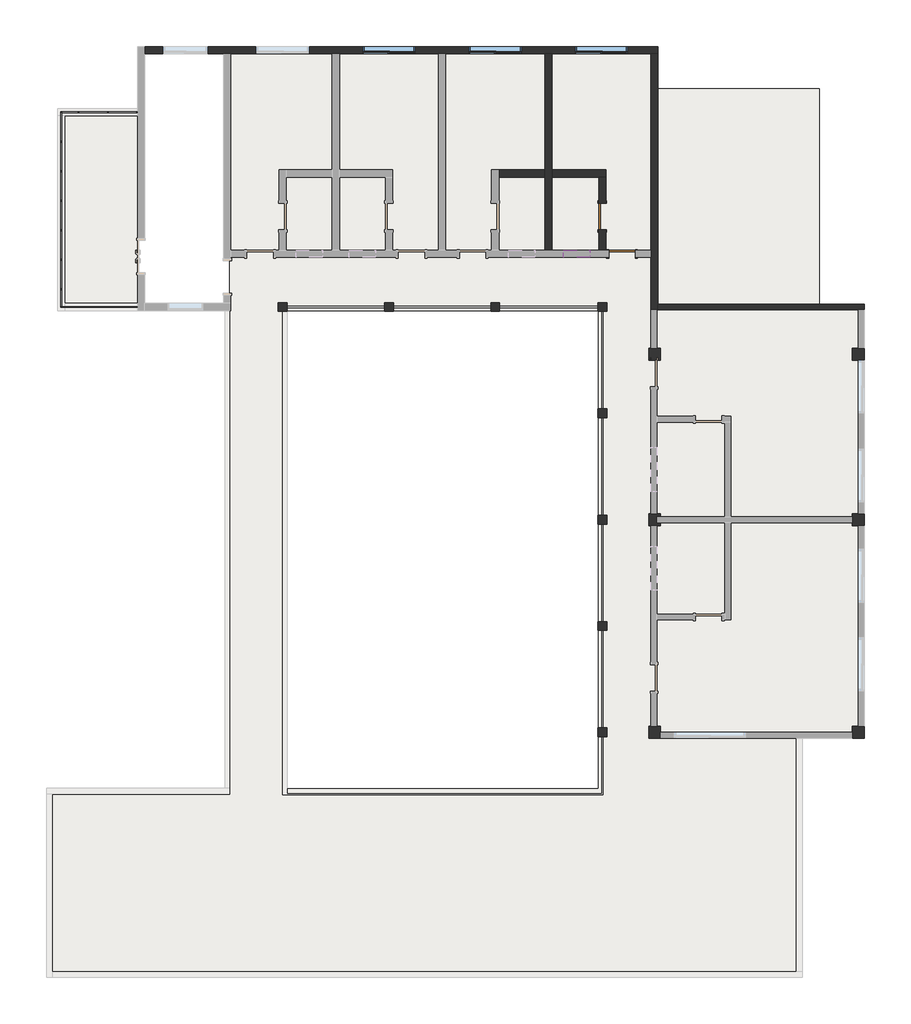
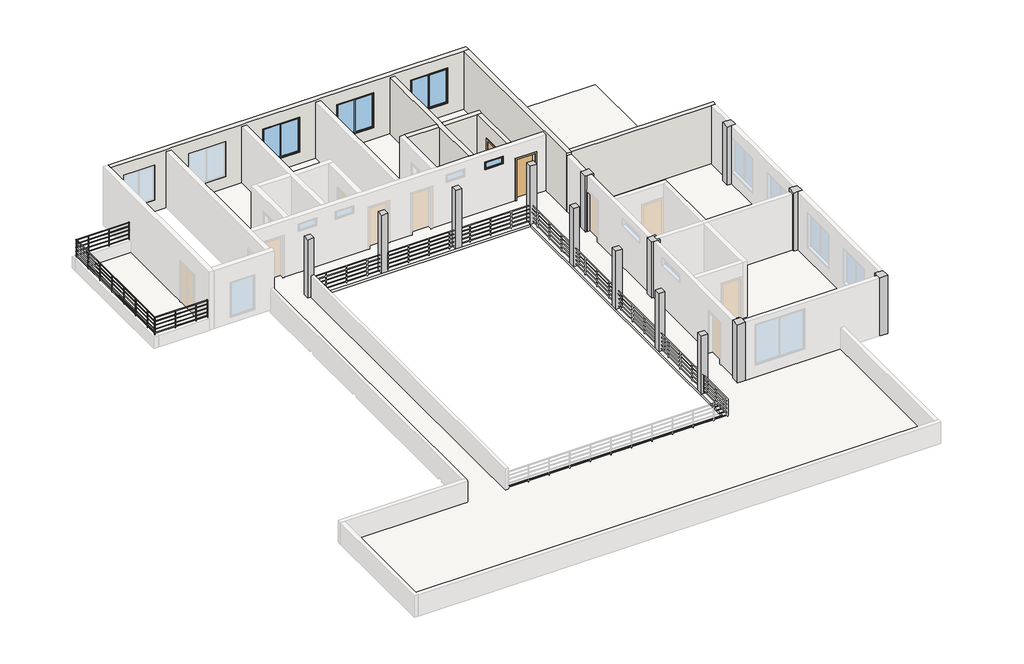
# One storey, part 2 of 3: 14 columns, 6 walls, 4 windows, 2 doors, 1 railing, 1 slab.
"""IFC4 building model written with IfcOpenShell, lengths in millimetres."""

from ifc_helpers import new_model, si_unit, point, frame, frame_2d, origin, place, context, project, spatial, polyline, circle_curve, ellipse_curve, trimmed, segment, composite_curve, outline, extrude, faceted_brep, transform, mapped, element, save
from ifc_brep_helpers import plane_surface, cylinder_surface, advanced_brep
from components import z2_300_x_300mm_b37a59b8, m0921_198a37c4, m0921_4988a537, c1818_23193a84, gc0904_cdc2df7b

model = new_model("IFC4")

# Units and contexts
model_context = context("Model", 3, world=origin())
ifc_project = project(units=[si_unit("LENGTHUNIT", "METRE", prefix="MILLI")], contexts=[model_context])

# Site, building, storey
site = spatial("IfcSite", under=ifc_project)
building = spatial("IfcBuilding", under=site)
storey = spatial("IfcBuildingStorey", under=building, Name="标高 2", Elevation=4200.0)

# Columns
placement = place(None, origin())
element("IfcColumn", 1, ObjectType="混凝土 - 矩形 - 柱 : Z1-400 x 400mm", at=placement, inside=storey, context=model_context, shape_type="Brep", body=[
    faceted_brep([(11736.7377372, 15644.1658649, 4200.0), (11736.7377372, 15244.1658649, 4200.0), (11336.7377372, 15244.1658649, 4200.0), (11336.7377372, 15644.1658649, 4200.0), (11416.7377372, 15644.1658649, 4200.0), (11616.7377372, 15644.1658649, 4200.0), (11736.7377372, 15644.1658649, 7080.0), (11736.7377372, 15244.1658649, 7080.0), (11616.7377372, 15244.1658649, 7080.0), (11416.7377372, 15244.1658649, 7080.0), (11336.7377372, 15244.1658649, 7080.0), (11336.7377372, 15644.1658649, 7080.0), (11416.7377372, 15644.1658649, 7080.0), (11616.7377372, 15644.1658649, 7080.0)], [[[0, 1, 2, 3, 4, 5]], [[6, 7, 1, 0]], [[7, 8, 9, 10, 2, 1]], [[10, 11, 3, 2]], [[11, 12, 13, 6, 0, 5, 4, 3]], [[6, 13, 12, 11, 10, 9, 8, 7]]]),
])
element("IfcColumn", 2, ObjectType="混凝土 - 矩形 - 柱 : Z1-400 x 400mm", at=placement, inside=storey, context=model_context, shape_type="Brep", body=[
    faceted_brep([(18636.7377372, 15644.1658649, 4200.0), (18636.7377372, 15244.1658649, 4200.0), (18436.7377372, 15244.1658649, 4200.0), (18236.7377372, 15244.1658649, 4200.0), (18236.7377372, 15644.1658649, 4200.0), (18436.7377372, 15644.1658649, 4200.0), (18636.7377372, 15644.1658649, 7200.0), (18636.7377372, 15244.1658649, 7200.0), (18636.7377372, 15244.1658649, 6600.0), (18636.7377372, 15244.1658649, 4800.0), (18436.7377372, 15244.1658649, 7200.0), (18236.7377372, 15244.1658649, 7200.0), (18236.7377372, 15644.1658649, 7200.0), (18436.7377372, 15644.1658649, 7200.0)], [[[0, 1, 2, 3, 4, 5]], [[6, 7, 8, 9, 1, 0]], [[7, 10, 11, 3, 2, 1, 9, 8]], [[11, 12, 4, 3]], [[12, 13, 6, 0, 5, 4]], [[6, 13, 12, 11, 10, 7]]]),
])
element("IfcColumn", 3, ObjectType="混凝土 - 矩形 - 柱 : Z1-400 x 400mm", at=placement, inside=storey, context=model_context, shape_type="Brep", body=[
    faceted_brep([(11736.7377372, 10044.1658649, 4200.0), (11736.7377372, 9644.1658649, 4200.0), (11616.7377372, 9644.1658649, 4200.0), (11416.7377372, 9644.1658649, 4200.0), (11336.7377372, 9644.1658649, 4200.0), (11336.7377372, 10044.1658649, 4200.0), (11416.7377372, 10044.1658649, 4200.0), (11616.7377372, 10044.1658649, 4200.0), (11736.7377372, 10044.1658649, 7080.0), (11736.7377372, 9644.1658649, 7080.0), (11616.7377372, 9644.1658649, 7080.0), (11416.7377372, 9644.1658649, 7080.0), (11336.7377372, 9644.1658649, 7080.0), (11336.7377372, 10044.1658649, 7080.0), (11416.7377372, 10044.1658649, 7080.0), (11616.7377372, 10044.1658649, 7080.0)], [[[0, 1, 2, 3, 4, 5, 6, 7]], [[8, 9, 1, 0]], [[9, 10, 11, 12, 4, 3, 2, 1]], [[12, 13, 5, 4]], [[13, 14, 15, 8, 0, 7, 6, 5]], [[8, 15, 14, 13, 12, 11, 10, 9]]]),
])
element("IfcColumn", 4, ObjectType="混凝土 - 矩形 - 柱 : Z1-400 x 400mm", at=placement, inside=storey, context=model_context, shape_type="Brep", body=[
    faceted_brep([(18636.7377372, 10044.1658649, 4200.0), (18636.7377372, 9644.1658649, 4200.0), (18436.7377372, 9644.1658649, 4200.0), (18236.7377372, 9644.1658649, 4200.0), (18236.7377372, 9744.1658649, 4200.0), (18236.7377372, 9944.1658649, 4200.0), (18236.7377372, 10044.1658649, 4200.0), (18436.7377372, 10044.1658649, 4200.0), (18636.7377372, 10044.1658649, 7200.0), (18636.7377372, 9644.1658649, 7200.0), (18436.7377372, 9644.1658649, 7200.0), (18236.7377372, 9644.1658649, 7200.0), (18236.7377372, 10044.1658649, 7200.0), (18436.7377372, 10044.1658649, 7200.0)], [[[0, 1, 2, 3, 4, 5, 6, 7]], [[8, 9, 1, 0]], [[9, 10, 11, 3, 2, 1]], [[11, 12, 6, 5, 4, 3]], [[12, 13, 8, 0, 7, 6]], [[8, 13, 12, 11, 10, 9]]]),
])
element("IfcColumn", 5, ObjectType="混凝土 - 矩形 - 柱 : Z1-400 x 400mm", at=placement, inside=storey, context=model_context, shape_type="Brep", body=[
    faceted_brep([(11736.7377372, 2844.1658649, 4200.0), (11736.7377372, 2644.1658649, 4200.0), (11736.7377372, 2444.1658649, 4200.0), (11336.7377372, 2444.1658649, 4200.0), (11336.7377372, 2844.1658649, 4200.0), (11416.7377372, 2844.1658649, 4200.0), (11616.7377372, 2844.1658649, 4200.0), (11736.7377372, 2844.1658649, 7200.0), (11736.7377372, 2644.1658649, 7200.0), (11736.7377372, 2444.1658649, 7200.0), (11336.7377372, 2444.1658649, 7200.0), (11336.7377372, 2844.1658649, 7200.0)], [[[0, 1, 2, 3, 4, 5, 6]], [[7, 8, 9, 2, 1, 0]], [[9, 10, 3, 2]], [[10, 11, 4, 3]], [[11, 7, 0, 6, 5, 4]], [[7, 11, 10, 9, 8]]]),
])
element("IfcColumn", 6, ObjectType="混凝土 - 矩形 - 柱 : Z1-400 x 400mm", at=placement, inside=storey, context=model_context, shape_type="Brep", body=[
    faceted_brep([(18636.7377372, 2844.1658649, 4200.0), (18636.7377372, 2444.1658649, 4200.0), (18236.7377372, 2444.1658649, 4200.0), (18236.7377372, 2644.1658649, 4200.0), (18236.7377372, 2844.1658649, 4200.0), (18436.7377372, 2844.1658649, 4200.0), (18636.7377372, 2844.1658649, 7200.0), (18636.7377372, 2444.1658649, 7200.0), (18236.7377372, 2444.1658649, 7200.0), (18236.7377372, 2644.1658649, 7200.0), (18236.7377372, 2844.1658649, 7200.0), (18436.7377372, 2844.1658649, 7200.0)], [[[0, 1, 2, 3, 4, 5]], [[6, 7, 1, 0]], [[7, 8, 2, 1]], [[8, 9, 10, 4, 3, 2]], [[10, 11, 6, 0, 5, 4]], [[6, 11, 10, 9, 8, 7]]]),
])
element("IfcColumn", 7, ObjectType="混凝土 - 矩形 - 柱 : Z2-300 x 300mm", at=placement, inside=storey, context=model_context, shape_type="Brep", body=[
    faceted_brep([(-913.2622628, 17194.1658649, 4200.0), (-913.2622628, 17044.1658649, 4200.0), (-913.2622628, 16894.1658649, 4200.0), (-1063.2622628, 16894.1658649, 4200.0), (-1213.2622628, 16894.1658649, 4200.0), (-1213.2622628, 17194.1658649, 4200.0), (-913.2622628, 17194.1658649, 7200.0), (-913.2622628, 16894.1658649, 7200.0), (-913.2622628, 16894.1658649, 5300.0), (-1213.2622628, 16894.1658649, 7200.0), (-1213.2622628, 17194.1658649, 7200.0)], [[[0, 1, 2, 3, 4, 5]], [[6, 7, 8, 2, 1, 0]], [[7, 9, 4, 3, 2, 8]], [[9, 10, 5, 4]], [[10, 6, 0, 5]], [[6, 10, 9, 7]]]),
])
element("IfcColumn", 8, ObjectType="混凝土 - 矩形 - 柱 : Z2-300 x 300mm", at=placement, inside=storey, context=model_context, shape_type="SweptSolid", body=[
    extrude(outline(polyline([(2686.7377372, 17194.1658649), (2686.7377372, 16894.1658649), (2386.7377372, 16894.1658649), (2386.7377372, 17194.1658649), (2686.7377372, 17194.1658649)])), frame((0.0, 0.0, 4200.0), z_axis=(0.0, 0.0, 1.0), x_axis=(1.0, 0.0, 0.0)), (0.0, 0.0, 1.0), 3000.0),
])
element("IfcColumn", 9, ObjectType="混凝土 - 矩形 - 柱 : Z2-300 x 300mm", at=placement, inside=storey, context=model_context, shape_type="SweptSolid", body=[
    extrude(outline(polyline([(6286.7377372, 17194.1658649), (6286.7377372, 16894.1658649), (5986.7377372, 16894.1658649), (5986.7377372, 17194.1658649), (6286.7377372, 17194.1658649)])), frame((0.0, 0.0, 4200.0), z_axis=(0.0, 0.0, 1.0), x_axis=(1.0, 0.0, 0.0)), (0.0, 0.0, 1.0), 3000.0),
])
element("IfcColumn", 10, ObjectType="混凝土 - 矩形 - 柱 : Z2-300 x 300mm", at=placement, inside=storey, context=model_context, shape_type="SweptSolid", body=[
    extrude(outline(polyline([(9916.7377372, 17194.1658649), (9916.7377372, 16894.1658649), (9616.7377372, 16894.1658649), (9616.7377372, 17194.1658649), (9916.7377372, 17194.1658649)])), frame((0.0, 0.0, 4200.0), z_axis=(0.0, 0.0, 1.0), x_axis=(1.0, 0.0, 0.0)), (0.0, 0.0, 1.0), 3000.0),
])
z2_300_x_300mm_shape = z2_300_x_300mm_b37a59b8(model_context)
element("IfcColumn", 11, ObjectType="混凝土 - 矩形 - 柱 : Z2-300 x 300mm", at=placement, inside=storey, context=model_context, shape_type="MappedRepresentation", body=[
    mapped(z2_300_x_300mm_shape, transform((9766.7377372, 13444.1658649, 0.0), x_axis=(1.0, 0.0, 0.0), y_axis=(0.0, 1.0, 0.0), z_axis=(0.0, 0.0, 1.0))),
])
element("IfcColumn", 12, ObjectType="混凝土 - 矩形 - 柱 : Z2-300 x 300mm", at=placement, inside=storey, context=model_context, shape_type="MappedRepresentation", body=[
    mapped(z2_300_x_300mm_shape, transform((9766.7377372, 9844.1658649, 0.0), x_axis=(1.0, 0.0, 0.0), y_axis=(0.0, 1.0, 0.0), z_axis=(0.0, 0.0, 1.0))),
])
element("IfcColumn", 13, ObjectType="混凝土 - 矩形 - 柱 : Z2-300 x 300mm", at=placement, inside=storey, context=model_context, shape_type="MappedRepresentation", body=[
    mapped(z2_300_x_300mm_shape, transform((9766.7377372, 6244.1658649, 0.0), x_axis=(1.0, 0.0, 0.0), y_axis=(0.0, 1.0, 0.0), z_axis=(0.0, 0.0, 1.0))),
])
element("IfcColumn", 14, ObjectType="混凝土 - 矩形 - 柱 : Z2-300 x 300mm", at=placement, inside=storey, context=model_context, shape_type="MappedRepresentation", body=[
    mapped(z2_300_x_300mm_shape, transform((9766.7377372, 2644.1658649, 0.0), x_axis=(1.0, 0.0, 0.0), y_axis=(0.0, 1.0, 0.0), z_axis=(0.0, 0.0, 1.0))),
])

# Doors
m0921_shape = m0921_198a37c4(model_context)
element("IfcDoor", 15, ObjectType="单扇 - 与墙齐 : M0921", at=placement, inside=storey, context=model_context, shape_type="MappedRepresentation", body=[
    mapped(m0921_shape, transform((9766.7377372, 20109.1658649, 4200.0), x_axis=(0.0, -1.0, 0.0), y_axis=(1.0, 0.0, 0.0), z_axis=(0.0, 0.0, 1.0))),
])
m0921_2_shape = m0921_4988a537(model_context)
element("IfcDoor", 16, ObjectType="单扇 - 与墙齐 : M0921", at=placement, inside=storey, context=model_context, shape_type="MappedRepresentation", body=[
    mapped(m0921_2_shape, transform((10436.7377372, 18844.1658649, 4200.0), x_axis=(1.0, 0.0, 0.0), y_axis=(0.0, 1.0, 0.0), z_axis=(0.0, 0.0, 1.0))),
])

# Railing
element("IfcRailing", 17, ObjectType="900mm 圆管", at=placement, inside=storey, context=model_context, shape_type="SolidModel", body=[
    advanced_brep(
    [(-5983.2622628, 23664.1658649, 5680.0), (-5983.2622628, 23624.1658649, 5680.0), (-8583.2622628, 23664.1658649, 5680.0), (-8543.2622628, 23624.1658649, 5680.0), (-8583.2622628, 17024.1658649, 5680.0), (-8543.2622628, 17064.1658649, 5680.0), (-5983.2622628, 17024.1658649, 5680.0), (-5983.2622628, 17064.1658649, 5680.0)],
    [
        (0, 1, circle_curve(frame((-5983.2622628, 23644.1658649, 5680.0), z_axis=(1.0, 0.0, 0.0), x_axis=(0.0, -1.0, 0.0)), 20.0)),
        (1, 0, circle_curve(frame((-5983.2622628, 23644.1658649, 5680.0), z_axis=(1.0, 0.0, 0.0), x_axis=(0.0, -1.0, 0.0)), 20.0)),
        (0, 2),
        (2, 3, ellipse_curve(frame((-8563.2622628, 23644.1658649, 5680.0), z_axis=(0.7071067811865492, 0.7071067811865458, 0.0), x_axis=(0.7071067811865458, -0.7071067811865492, 0.0)), 28.2842712, 20.0)),
        (3, 1),
        (3, 2, ellipse_curve(frame((-8563.2622628, 23644.1658649, 5680.0), z_axis=(0.7071067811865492, 0.7071067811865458, 0.0), x_axis=(0.7071067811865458, -0.7071067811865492, 0.0)), 28.2842712, 20.0)),
        (2, 4),
        (4, 5, ellipse_curve(frame((-8563.2622628, 17044.1658649, 5680.0), z_axis=(-0.7071067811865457, 0.7071067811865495, 0.0), x_axis=(0.7071067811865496, 0.7071067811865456, 0.0)), 28.2842712, 20.0)),
        (5, 3),
        (5, 4, ellipse_curve(frame((-8563.2622628, 17044.1658649, 5680.0), z_axis=(-0.7071067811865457, 0.7071067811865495, 0.0), x_axis=(0.7071067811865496, 0.7071067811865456, 0.0)), 28.2842712, 20.0)),
        (6, 7, circle_curve(frame((-5983.2622628, 17044.1658649, 5680.0), z_axis=(1.0, 0.0, 0.0), x_axis=(0.0, 1.0, 0.0)), 20.0)),
        (7, 6, circle_curve(frame((-5983.2622628, 17044.1658649, 5680.0), z_axis=(1.0, 0.0, 0.0), x_axis=(0.0, 1.0, 0.0)), 20.0)),
        (4, 6),
        (7, 5),
    ],
    [
        plane_surface(frame((-5983.2622628, 23644.1658649, 5700.0), z_axis=(1.0, 0.0, 0.0), x_axis=(0.0, -1.0, 0.0))),
        cylinder_surface(frame((-5983.2622628, 23644.1658649, 5680.0), z_axis=(1.0, 0.0, 0.0), x_axis=(0.0, -1.0, 0.0)), 20.0),
        cylinder_surface(frame((-8563.2622628, 23644.1658649, 5680.0), z_axis=(0.0, 1.0, 0.0), x_axis=(1.0, 0.0, 0.0)), 20.0),
        plane_surface(frame((-5983.2622628, 17044.1658649, 5700.0), z_axis=(1.0, 0.0, 0.0), x_axis=(0.0, 1.0, 0.0))),
        cylinder_surface(frame((-8563.2622628, 17044.1658649, 5680.0), z_axis=(-1.0, 0.0, 0.0), x_axis=(0.0, 1.0, 0.0)), 20.0),
    ],
    [
        (0, [[1, 2]]),
        (1, [[-1, 3, 4, 5]]),
        (1, [[-2, -5, 6, -3]]),
        (2, [[-4, 7, 8, 9]]),
        (2, [[-6, -9, 10, -7]]),
        (3, [[11, 12]]),
        (4, [[-8, 13, -12, 14]]),
        (4, [[-10, -14, -11, -13]]),
    ],
),
    advanced_brep(
    [(-5983.2622628, 23629.1658649, 5485.0), (-5983.2622628, 23659.1658649, 5485.0), (-8548.2622628, 23629.1658649, 5485.0), (-8578.2622628, 23659.1658649, 5485.0), (-8548.2622628, 17059.1658649, 5485.0), (-8578.2622628, 17029.1658649, 5485.0), (-5983.2622628, 17059.1658649, 5485.0), (-5983.2622628, 17029.1658649, 5485.0)],
    [
        (0, 1, circle_curve(frame((-5983.2622628, 23644.1658649, 5485.0), z_axis=(1.0, 0.0, 0.0), x_axis=(0.0, 1.0, 0.0)), 15.0)),
        (1, 0, circle_curve(frame((-5983.2622628, 23644.1658649, 5485.0), z_axis=(1.0, 0.0, 0.0), x_axis=(0.0, 1.0, 0.0)), 15.0)),
        (0, 2),
        (2, 3, ellipse_curve(frame((-8563.2622628, 23644.1658649, 5485.0), z_axis=(0.7071067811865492, 0.7071067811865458, 0.0), x_axis=(0.7071067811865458, -0.7071067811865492, 0.0)), 21.2132034, 15.0)),
        (3, 1),
        (3, 2, ellipse_curve(frame((-8563.2622628, 23644.1658649, 5485.0), z_axis=(0.7071067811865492, 0.7071067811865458, 0.0), x_axis=(0.7071067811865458, -0.7071067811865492, 0.0)), 21.2132034, 15.0)),
        (2, 4),
        (4, 5, ellipse_curve(frame((-8563.2622628, 17044.1658649, 5485.0), z_axis=(-0.7071067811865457, 0.7071067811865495, 0.0), x_axis=(0.7071067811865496, 0.7071067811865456, 0.0)), 21.2132034, 15.0)),
        (5, 3),
        (5, 4, ellipse_curve(frame((-8563.2622628, 17044.1658649, 5485.0), z_axis=(-0.7071067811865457, 0.7071067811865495, 0.0), x_axis=(0.7071067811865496, 0.7071067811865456, 0.0)), 21.2132034, 15.0)),
        (6, 7, circle_curve(frame((-5983.2622628, 17044.1658649, 5485.0), z_axis=(1.0, 0.0, 0.0), x_axis=(0.0, -1.0, 0.0)), 15.0)),
        (7, 6, circle_curve(frame((-5983.2622628, 17044.1658649, 5485.0), z_axis=(1.0, 0.0, 0.0), x_axis=(0.0, -1.0, 0.0)), 15.0)),
        (4, 6),
        (7, 5),
    ],
    [
        plane_surface(frame((-5983.2622628, 23644.1658649, 5500.0), z_axis=(1.0, 0.0, 0.0), x_axis=(0.0, -1.0, 0.0))),
        cylinder_surface(frame((-5983.2622628, 23644.1658649, 5485.0), z_axis=(1.0, 0.0, 0.0), x_axis=(0.0, 1.0, 0.0)), 15.0),
        cylinder_surface(frame((-8563.2622628, 23644.1658649, 5485.0), z_axis=(0.0, 1.0, 0.0), x_axis=(-1.0, 0.0, 0.0)), 15.0),
        plane_surface(frame((-5983.2622628, 17044.1658649, 5500.0), z_axis=(1.0, 0.0, 0.0), x_axis=(0.0, 1.0, 0.0))),
        cylinder_surface(frame((-8563.2622628, 17044.1658649, 5485.0), z_axis=(-1.0, 0.0, 0.0), x_axis=(0.0, -1.0, 0.0)), 15.0),
    ],
    [
        (0, [[1, 2]]),
        (1, [[-1, 3, 4, 5]]),
        (1, [[-2, -5, 6, -3]]),
        (2, [[-4, 7, 8, 9]]),
        (2, [[-6, -9, 10, -7]]),
        (3, [[11, 12]]),
        (4, [[-8, 13, -12, 14]]),
        (4, [[-10, -14, -11, -13]]),
    ],
),
    advanced_brep(
    [(-5983.2622628, 23629.1658649, 5285.0), (-5983.2622628, 23659.1658649, 5285.0), (-8548.2622628, 23629.1658649, 5285.0), (-8578.2622628, 23659.1658649, 5285.0), (-8548.2622628, 17059.1658649, 5285.0), (-8578.2622628, 17029.1658649, 5285.0), (-5983.2622628, 17059.1658649, 5285.0), (-5983.2622628, 17029.1658649, 5285.0)],
    [
        (0, 1, circle_curve(frame((-5983.2622628, 23644.1658649, 5285.0), z_axis=(1.0, 0.0, 0.0), x_axis=(0.0, 1.0, 0.0)), 15.0)),
        (1, 0, circle_curve(frame((-5983.2622628, 23644.1658649, 5285.0), z_axis=(1.0, 0.0, 0.0), x_axis=(0.0, 1.0, 0.0)), 15.0)),
        (0, 2),
        (2, 3, ellipse_curve(frame((-8563.2622628, 23644.1658649, 5285.0), z_axis=(0.7071067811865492, 0.7071067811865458, 0.0), x_axis=(0.7071067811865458, -0.7071067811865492, 0.0)), 21.2132034, 15.0)),
        (3, 1),
        (3, 2, ellipse_curve(frame((-8563.2622628, 23644.1658649, 5285.0), z_axis=(0.7071067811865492, 0.7071067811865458, 0.0), x_axis=(0.7071067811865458, -0.7071067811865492, 0.0)), 21.2132034, 15.0)),
        (2, 4),
        (4, 5, ellipse_curve(frame((-8563.2622628, 17044.1658649, 5285.0), z_axis=(-0.7071067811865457, 0.7071067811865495, 0.0), x_axis=(0.7071067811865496, 0.7071067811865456, 0.0)), 21.2132034, 15.0)),
        (5, 3),
        (5, 4, ellipse_curve(frame((-8563.2622628, 17044.1658649, 5285.0), z_axis=(-0.7071067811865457, 0.7071067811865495, 0.0), x_axis=(0.7071067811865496, 0.7071067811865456, 0.0)), 21.2132034, 15.0)),
        (6, 7, circle_curve(frame((-5983.2622628, 17044.1658649, 5285.0), z_axis=(1.0, 0.0, 0.0), x_axis=(0.0, -1.0, 0.0)), 15.0)),
        (7, 6, circle_curve(frame((-5983.2622628, 17044.1658649, 5285.0), z_axis=(1.0, 0.0, 0.0), x_axis=(0.0, -1.0, 0.0)), 15.0)),
        (4, 6),
        (7, 5),
    ],
    [
        plane_surface(frame((-5983.2622628, 23644.1658649, 5300.0), z_axis=(1.0, 0.0, 0.0), x_axis=(0.0, -1.0, 0.0))),
        cylinder_surface(frame((-5983.2622628, 23644.1658649, 5285.0), z_axis=(1.0, 0.0, 0.0), x_axis=(0.0, 1.0, 0.0)), 15.0),
        cylinder_surface(frame((-8563.2622628, 23644.1658649, 5285.0), z_axis=(0.0, 1.0, 0.0), x_axis=(-1.0, 0.0, 0.0)), 15.0),
        plane_surface(frame((-5983.2622628, 17044.1658649, 5300.0), z_axis=(1.0, 0.0, 0.0), x_axis=(0.0, 1.0, 0.0))),
        cylinder_surface(frame((-8563.2622628, 17044.1658649, 5285.0), z_axis=(-1.0, 0.0, 0.0), x_axis=(0.0, -1.0, 0.0)), 15.0),
    ],
    [
        (0, [[1, 2]]),
        (1, [[-1, 3, 4, 5]]),
        (1, [[-2, -5, 6, -3]]),
        (2, [[-4, 7, 8, 9]]),
        (2, [[-6, -9, 10, -7]]),
        (3, [[11, 12]]),
        (4, [[-8, 13, -12, 14]]),
        (4, [[-10, -14, -11, -13]]),
    ],
),
    advanced_brep(
    [(-5983.2622628, 23629.1658649, 5085.0), (-5983.2622628, 23659.1658649, 5085.0), (-8548.2622628, 23629.1658649, 5085.0), (-8578.2622628, 23659.1658649, 5085.0), (-8548.2622628, 17059.1658649, 5085.0), (-8578.2622628, 17029.1658649, 5085.0), (-5983.2622628, 17059.1658649, 5085.0), (-5983.2622628, 17029.1658649, 5085.0)],
    [
        (0, 1, circle_curve(frame((-5983.2622628, 23644.1658649, 5085.0), z_axis=(1.0, 0.0, 0.0), x_axis=(0.0, 1.0, 0.0)), 15.0)),
        (1, 0, circle_curve(frame((-5983.2622628, 23644.1658649, 5085.0), z_axis=(1.0, 0.0, 0.0), x_axis=(0.0, 1.0, 0.0)), 15.0)),
        (0, 2),
        (2, 3, ellipse_curve(frame((-8563.2622628, 23644.1658649, 5085.0), z_axis=(0.7071067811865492, 0.7071067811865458, 0.0), x_axis=(0.7071067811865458, -0.7071067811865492, 0.0)), 21.2132034, 15.0)),
        (3, 1),
        (3, 2, ellipse_curve(frame((-8563.2622628, 23644.1658649, 5085.0), z_axis=(0.7071067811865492, 0.7071067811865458, 0.0), x_axis=(0.7071067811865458, -0.7071067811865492, 0.0)), 21.2132034, 15.0)),
        (2, 4),
        (4, 5, ellipse_curve(frame((-8563.2622628, 17044.1658649, 5085.0), z_axis=(-0.7071067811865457, 0.7071067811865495, 0.0), x_axis=(0.7071067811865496, 0.7071067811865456, 0.0)), 21.2132034, 15.0)),
        (5, 3),
        (5, 4, ellipse_curve(frame((-8563.2622628, 17044.1658649, 5085.0), z_axis=(-0.7071067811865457, 0.7071067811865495, 0.0), x_axis=(0.7071067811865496, 0.7071067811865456, 0.0)), 21.2132034, 15.0)),
        (6, 7, circle_curve(frame((-5983.2622628, 17044.1658649, 5085.0), z_axis=(1.0, 0.0, 0.0), x_axis=(0.0, -1.0, 0.0)), 15.0)),
        (7, 6, circle_curve(frame((-5983.2622628, 17044.1658649, 5085.0), z_axis=(1.0, 0.0, 0.0), x_axis=(0.0, -1.0, 0.0)), 15.0)),
        (4, 6),
        (7, 5),
    ],
    [
        plane_surface(frame((-5983.2622628, 23644.1658649, 5100.0), z_axis=(1.0, 0.0, 0.0), x_axis=(0.0, -1.0, 0.0))),
        cylinder_surface(frame((-5983.2622628, 23644.1658649, 5085.0), z_axis=(1.0, 0.0, 0.0), x_axis=(0.0, 1.0, 0.0)), 15.0),
        cylinder_surface(frame((-8563.2622628, 23644.1658649, 5085.0), z_axis=(0.0, 1.0, 0.0), x_axis=(-1.0, 0.0, 0.0)), 15.0),
        plane_surface(frame((-5983.2622628, 17044.1658649, 5100.0), z_axis=(1.0, 0.0, 0.0), x_axis=(0.0, 1.0, 0.0))),
        cylinder_surface(frame((-8563.2622628, 17044.1658649, 5085.0), z_axis=(-1.0, 0.0, 0.0), x_axis=(0.0, -1.0, 0.0)), 15.0),
    ],
    [
        (0, [[1, 2]]),
        (1, [[-1, 3, 4, 5]]),
        (1, [[-2, -5, 6, -3]]),
        (2, [[-4, 7, 8, 9]]),
        (2, [[-6, -9, 10, -7]]),
        (3, [[11, 12]]),
        (4, [[-8, 13, -12, 14]]),
        (4, [[-10, -14, -11, -13]]),
    ],
),
    advanced_brep(
    [(-5983.2622628, 23629.1658649, 4885.0), (-5983.2622628, 23659.1658649, 4885.0), (-8548.2622628, 23629.1658649, 4885.0), (-8578.2622628, 23659.1658649, 4885.0), (-8548.2622628, 17059.1658649, 4885.0), (-8578.2622628, 17029.1658649, 4885.0), (-5983.2622628, 17059.1658649, 4885.0), (-5983.2622628, 17029.1658649, 4885.0)],
    [
        (0, 1, circle_curve(frame((-5983.2622628, 23644.1658649, 4885.0), z_axis=(1.0, 0.0, 0.0), x_axis=(0.0, 1.0, 0.0)), 15.0)),
        (1, 0, circle_curve(frame((-5983.2622628, 23644.1658649, 4885.0), z_axis=(1.0, 0.0, 0.0), x_axis=(0.0, 1.0, 0.0)), 15.0)),
        (0, 2),
        (2, 3, ellipse_curve(frame((-8563.2622628, 23644.1658649, 4885.0), z_axis=(0.7071067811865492, 0.7071067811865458, 0.0), x_axis=(0.7071067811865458, -0.7071067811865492, 0.0)), 21.2132034, 15.0)),
        (3, 1),
        (3, 2, ellipse_curve(frame((-8563.2622628, 23644.1658649, 4885.0), z_axis=(0.7071067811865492, 0.7071067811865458, 0.0), x_axis=(0.7071067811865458, -0.7071067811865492, 0.0)), 21.2132034, 15.0)),
        (2, 4),
        (4, 5, ellipse_curve(frame((-8563.2622628, 17044.1658649, 4885.0), z_axis=(-0.7071067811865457, 0.7071067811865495, 0.0), x_axis=(0.7071067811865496, 0.7071067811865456, 0.0)), 21.2132034, 15.0)),
        (5, 3),
        (5, 4, ellipse_curve(frame((-8563.2622628, 17044.1658649, 4885.0), z_axis=(-0.7071067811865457, 0.7071067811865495, 0.0), x_axis=(0.7071067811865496, 0.7071067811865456, 0.0)), 21.2132034, 15.0)),
        (6, 7, circle_curve(frame((-5983.2622628, 17044.1658649, 4885.0), z_axis=(1.0, 0.0, 0.0), x_axis=(0.0, -1.0, 0.0)), 15.0)),
        (7, 6, circle_curve(frame((-5983.2622628, 17044.1658649, 4885.0), z_axis=(1.0, 0.0, 0.0), x_axis=(0.0, -1.0, 0.0)), 15.0)),
        (4, 6),
        (7, 5),
    ],
    [
        plane_surface(frame((-5983.2622628, 23644.1658649, 4900.0), z_axis=(1.0, 0.0, 0.0), x_axis=(0.0, -1.0, 0.0))),
        cylinder_surface(frame((-5983.2622628, 23644.1658649, 4885.0), z_axis=(1.0, 0.0, 0.0), x_axis=(0.0, 1.0, 0.0)), 15.0),
        cylinder_surface(frame((-8563.2622628, 23644.1658649, 4885.0), z_axis=(0.0, 1.0, 0.0), x_axis=(-1.0, 0.0, 0.0)), 15.0),
        plane_surface(frame((-5983.2622628, 17044.1658649, 4900.0), z_axis=(1.0, 0.0, 0.0), x_axis=(0.0, 1.0, 0.0))),
        cylinder_surface(frame((-8563.2622628, 17044.1658649, 4885.0), z_axis=(-1.0, 0.0, 0.0), x_axis=(0.0, -1.0, 0.0)), 15.0),
    ],
    [
        (0, [[1, 2]]),
        (1, [[-1, 3, 4, 5]]),
        (1, [[-2, -5, 6, -3]]),
        (2, [[-4, 7, 8, 9]]),
        (2, [[-6, -9, 10, -7]]),
        (3, [[11, 12]]),
        (4, [[-8, 13, -12, 14]]),
        (4, [[-10, -14, -11, -13]]),
    ],
),
    extrude(outline(composite_curve([segment(trimmed(circle_curve(frame_2d((-6563.2622628, 17044.1658649)), 12.5), [point((-6563.2622628, 17056.6658649))], [point((-6563.2622628, 17031.6658649))], False, "CARTESIAN"), True, "CONTINUOUS"), segment(trimmed(circle_curve(frame_2d((-6563.2622628, 17044.1658649)), 12.5), [point((-6563.2622628, 17031.6658649))], [point((-6563.2622628, 17056.6658649))], False, "CARTESIAN"), True, "CONTINUOUS")], self_intersect=False)), frame((0.0, 0.0, 4800.0), z_axis=(0.0, 0.0, 1.0), x_axis=(1.0, 0.0, 0.0)), (0.0, 0.0, 1.0), 860.0),
    extrude(outline(composite_curve([segment(trimmed(circle_curve(frame_2d((-7563.2622628, 17044.1658649)), 12.5), [point((-7563.2622628, 17056.6658649))], [point((-7563.2622628, 17031.6658649))], False, "CARTESIAN"), True, "CONTINUOUS"), segment(trimmed(circle_curve(frame_2d((-7563.2622628, 17044.1658649)), 12.5), [point((-7563.2622628, 17031.6658649))], [point((-7563.2622628, 17056.6658649))], False, "CARTESIAN"), True, "CONTINUOUS")], self_intersect=False)), frame((0.0, 0.0, 4800.0), z_axis=(0.0, 0.0, 1.0), x_axis=(1.0, 0.0, 0.0)), (0.0, 0.0, 1.0), 860.0),
    extrude(outline(composite_curve([segment(trimmed(circle_curve(frame_2d((-8563.2622628, 17644.1658649)), 12.5), [point((-8550.7622628, 17644.1658649))], [point((-8575.7622628, 17644.1658649))], False, "CARTESIAN"), True, "CONTINUOUS"), segment(trimmed(circle_curve(frame_2d((-8563.2622628, 17644.1658649)), 12.5), [point((-8575.7622628, 17644.1658649))], [point((-8550.7622628, 17644.1658649))], False, "CARTESIAN"), True, "CONTINUOUS")], self_intersect=False)), frame((0.0, 0.0, 4800.0), z_axis=(0.0, 0.0, 1.0), x_axis=(1.0, 0.0, 0.0)), (0.0, 0.0, 1.0), 860.0),
    extrude(outline(composite_curve([segment(trimmed(circle_curve(frame_2d((-8563.2622628, 18644.1658649)), 12.5), [point((-8550.7622628, 18644.1658649))], [point((-8575.7622628, 18644.1658649))], False, "CARTESIAN"), True, "CONTINUOUS"), segment(trimmed(circle_curve(frame_2d((-8563.2622628, 18644.1658649)), 12.5), [point((-8575.7622628, 18644.1658649))], [point((-8550.7622628, 18644.1658649))], False, "CARTESIAN"), True, "CONTINUOUS")], self_intersect=False)), frame((0.0, 0.0, 4800.0), z_axis=(0.0, 0.0, 1.0), x_axis=(1.0, 0.0, 0.0)), (0.0, 0.0, 1.0), 860.0),
    extrude(outline(composite_curve([segment(trimmed(circle_curve(frame_2d((-8563.2622628, 19644.1658649)), 12.5), [point((-8550.7622628, 19644.1658649))], [point((-8575.7622628, 19644.1658649))], False, "CARTESIAN"), True, "CONTINUOUS"), segment(trimmed(circle_curve(frame_2d((-8563.2622628, 19644.1658649)), 12.5), [point((-8575.7622628, 19644.1658649))], [point((-8550.7622628, 19644.1658649))], False, "CARTESIAN"), True, "CONTINUOUS")], self_intersect=False)), frame((0.0, 0.0, 4800.0), z_axis=(0.0, 0.0, 1.0), x_axis=(1.0, 0.0, 0.0)), (0.0, 0.0, 1.0), 860.0),
    extrude(outline(composite_curve([segment(trimmed(circle_curve(frame_2d((-8563.2622628, 20644.1658649)), 12.5), [point((-8550.7622628, 20644.1658649))], [point((-8575.7622628, 20644.1658649))], False, "CARTESIAN"), True, "CONTINUOUS"), segment(trimmed(circle_curve(frame_2d((-8563.2622628, 20644.1658649)), 12.5), [point((-8575.7622628, 20644.1658649))], [point((-8550.7622628, 20644.1658649))], False, "CARTESIAN"), True, "CONTINUOUS")], self_intersect=False)), frame((0.0, 0.0, 4800.0), z_axis=(0.0, 0.0, 1.0), x_axis=(1.0, 0.0, 0.0)), (0.0, 0.0, 1.0), 860.0),
    extrude(outline(composite_curve([segment(trimmed(circle_curve(frame_2d((-8563.2622628, 21644.1658649)), 12.5), [point((-8550.7622628, 21644.1658649))], [point((-8575.7622628, 21644.1658649))], False, "CARTESIAN"), True, "CONTINUOUS"), segment(trimmed(circle_curve(frame_2d((-8563.2622628, 21644.1658649)), 12.5), [point((-8575.7622628, 21644.1658649))], [point((-8550.7622628, 21644.1658649))], False, "CARTESIAN"), True, "CONTINUOUS")], self_intersect=False)), frame((0.0, 0.0, 4800.0), z_axis=(0.0, 0.0, 1.0), x_axis=(1.0, 0.0, 0.0)), (0.0, 0.0, 1.0), 860.0),
    extrude(outline(composite_curve([segment(trimmed(circle_curve(frame_2d((-8563.2622628, 22644.1658649)), 12.5), [point((-8550.7622628, 22644.1658649))], [point((-8575.7622628, 22644.1658649))], False, "CARTESIAN"), True, "CONTINUOUS"), segment(trimmed(circle_curve(frame_2d((-8563.2622628, 22644.1658649)), 12.5), [point((-8575.7622628, 22644.1658649))], [point((-8550.7622628, 22644.1658649))], False, "CARTESIAN"), True, "CONTINUOUS")], self_intersect=False)), frame((0.0, 0.0, 4800.0), z_axis=(0.0, 0.0, 1.0), x_axis=(1.0, 0.0, 0.0)), (0.0, 0.0, 1.0), 860.0),
    extrude(outline(composite_curve([segment(trimmed(circle_curve(frame_2d((-7983.2622628, 23644.1658649)), 12.5), [point((-7983.2622628, 23631.6658649))], [point((-7983.2622628, 23656.6658649))], False, "CARTESIAN"), True, "CONTINUOUS"), segment(trimmed(circle_curve(frame_2d((-7983.2622628, 23644.1658649)), 12.5), [point((-7983.2622628, 23656.6658649))], [point((-7983.2622628, 23631.6658649))], False, "CARTESIAN"), True, "CONTINUOUS")], self_intersect=False)), frame((0.0, 0.0, 4800.0), z_axis=(0.0, 0.0, 1.0), x_axis=(1.0, 0.0, 0.0)), (0.0, 0.0, 1.0), 860.0),
    extrude(outline(composite_curve([segment(trimmed(circle_curve(frame_2d((-6983.2622628, 23644.1658649)), 12.5), [point((-6983.2622628, 23631.6658649))], [point((-6983.2622628, 23656.6658649))], False, "CARTESIAN"), True, "CONTINUOUS"), segment(trimmed(circle_curve(frame_2d((-6983.2622628, 23644.1658649)), 12.5), [point((-6983.2622628, 23656.6658649))], [point((-6983.2622628, 23631.6658649))], False, "CARTESIAN"), True, "CONTINUOUS")], self_intersect=False)), frame((0.0, 0.0, 4800.0), z_axis=(0.0, 0.0, 1.0), x_axis=(1.0, 0.0, 0.0)), (0.0, 0.0, 1.0), 860.0),
    extrude(outline(composite_curve([segment(trimmed(circle_curve(frame_2d((-8563.2622628, 17044.1658649)), 12.5), [point((-8550.7622628, 17044.1658649))], [point((-8575.7622628, 17044.1658649))], False, "CARTESIAN"), True, "CONTINUOUS"), segment(trimmed(circle_curve(frame_2d((-8563.2622628, 17044.1658649)), 12.5), [point((-8575.7622628, 17044.1658649))], [point((-8550.7622628, 17044.1658649))], False, "CARTESIAN"), True, "CONTINUOUS")], self_intersect=False)), frame((0.0, 0.0, 4800.0), z_axis=(0.0, 0.0, 1.0), x_axis=(1.0, 0.0, 0.0)), (0.0, 0.0, 1.0), 860.0),
    extrude(outline(composite_curve([segment(trimmed(circle_curve(frame_2d((-8563.2622628, 23644.1658649)), 12.5), [point((-8563.2622628, 23631.6658649))], [point((-8563.2622628, 23656.6658649))], False, "CARTESIAN"), True, "CONTINUOUS"), segment(trimmed(circle_curve(frame_2d((-8563.2622628, 23644.1658649)), 12.5), [point((-8563.2622628, 23656.6658649))], [point((-8563.2622628, 23631.6658649))], False, "CARTESIAN"), True, "CONTINUOUS")], self_intersect=False)), frame((0.0, 0.0, 4800.0), z_axis=(0.0, 0.0, 1.0), x_axis=(1.0, 0.0, 0.0)), (0.0, 0.0, 1.0), 860.0),
    extrude(outline(composite_curve([segment(trimmed(circle_curve(frame_2d((-5995.7622628, 17044.1658649)), 12.5), [point((-5995.7622628, 17056.6658649))], [point((-5995.7622628, 17031.6658649))], False, "CARTESIAN"), True, "CONTINUOUS"), segment(trimmed(circle_curve(frame_2d((-5995.7622628, 17044.1658649)), 12.5), [point((-5995.7622628, 17031.6658649))], [point((-5995.7622628, 17056.6658649))], False, "CARTESIAN"), True, "CONTINUOUS")], self_intersect=False)), frame((0.0, 0.0, 4800.0), z_axis=(0.0, 0.0, 1.0), x_axis=(1.0, 0.0, 0.0)), (0.0, 0.0, 1.0), 860.0),
    extrude(outline(composite_curve([segment(trimmed(circle_curve(frame_2d((-5995.7622628, 23644.1658649)), 12.5), [point((-5995.7622628, 23631.6658649))], [point((-5995.7622628, 23656.6658649))], False, "CARTESIAN"), True, "CONTINUOUS"), segment(trimmed(circle_curve(frame_2d((-5995.7622628, 23644.1658649)), 12.5), [point((-5995.7622628, 23656.6658649))], [point((-5995.7622628, 23631.6658649))], False, "CARTESIAN"), True, "CONTINUOUS")], self_intersect=False)), frame((0.0, 0.0, 4800.0), z_axis=(0.0, 0.0, 1.0), x_axis=(1.0, 0.0, 0.0)), (0.0, 0.0, 1.0), 860.0),
])

# Slab
element("IfcSlab", 18, ObjectType="楼板-120mm", at=placement, inside=storey, context=model_context, shape_type="Brep", body=[
    faceted_brep([(11421.7377372, 24429.1658649, 4080.0), (17121.7377372, 24429.1658649, 4080.0), (17121.7377372, 16949.1658649, 4080.0), (18441.7377372, 16949.1658649, 4080.0), (18441.7377372, 2639.1658649, 4080.0), (16341.7377372, 2639.1658649, 4080.0), (16341.7377372, 744.1658649, 4080.0), (16341.7377372, 344.1658649, 4080.0), (16341.7377372, -5255.8341351, 4080.0), (16341.7377372, -5460.8341351, 4080.0), (16136.7377372, -5460.8341351, 4080.0), (11736.7377372, -5460.8341351, 4080.0), (11336.7377372, -5460.8341351, 4080.0), (6936.7377372, -5460.8341351, 4080.0), (6536.7377372, -5460.8341351, 4080.0), (2136.7377372, -5460.8341351, 4080.0), (1736.7377372, -5460.8341351, 4080.0), (-2663.2622628, -5460.8341351, 4080.0), (-3063.2622628, -5460.8341351, 4080.0), (-8868.2622628, -5460.8341351, 4080.0), (-8868.2622628, 549.1658649, 4080.0), (-3063.2622628, 549.1658649, 4080.0), (-2868.2622628, 549.1658649, 4080.0), (-2868.2622628, 744.1658649, 4080.0), (-2868.2622628, 2494.1658649, 4080.0), (-2868.2622628, 2794.1658649, 4080.0), (-2868.2622628, 6094.1658649, 4080.0), (-2868.2622628, 6394.1658649, 4080.0), (-2868.2622628, 9694.1658649, 4080.0), (-2868.2622628, 9994.1658649, 4080.0), (-2868.2622628, 13294.1658649, 4080.0), (-2868.2622628, 13594.1658649, 4080.0), (-2868.2622628, 16924.1658649, 4080.0), (-2868.2622628, 25624.1658649, 4080.0), (-2868.2622628, 25629.1658649, 4080.0), (11421.7377372, 25629.1658649, 4080.0), (9616.7377372, 16894.1658649, 4080.0), (-1063.2622628, 16894.1658649, 4080.0), (-1063.2622628, 13594.1658649, 4080.0), (-1063.2622628, 13294.1658649, 4080.0), (-1063.2622628, 9994.1658649, 4080.0), (-1063.2622628, 9694.1658649, 4080.0), (-1063.2622628, 6394.1658649, 4080.0), (-1063.2622628, 6094.1658649, 4080.0), (-1063.2622628, 2794.1658649, 4080.0), (-1063.2622628, 2494.1658649, 4080.0), (-1063.2622628, 744.1658649, 4080.0), (1736.7377372, 744.1658649, 4080.0), (2136.7377372, 744.1658649, 4080.0), (6536.7377372, 744.1658649, 4080.0), (6936.7377372, 744.1658649, 4080.0), (9616.7377372, 744.1658649, 4080.0), (11421.7377372, 24429.1658649, 4200.0), (11421.7377372, 25629.1658649, 4200.0), (-2868.2622628, 25629.1658649, 4200.0), (-2868.2622628, 25624.1658649, 4200.0), (-2868.2622628, 16924.1658649, 4200.0), (-2868.2622628, 13594.1658649, 4200.0), (-2868.2622628, 13294.1658649, 4200.0), (-2868.2622628, 9994.1658649, 4200.0), (-2868.2622628, 9694.1658649, 4200.0), (-2868.2622628, 6394.1658649, 4200.0), (-2868.2622628, 6094.1658649, 4200.0), (-2868.2622628, 2794.1658649, 4200.0), (-2868.2622628, 2494.1658649, 4200.0), (-2868.2622628, 744.1658649, 4200.0), (-2868.2622628, 549.1658649, 4200.0), (-3063.2622628, 549.1658649, 4200.0), (-8868.2622628, 549.1658649, 4200.0), (-8868.2622628, -5460.8341351, 4200.0), (-3063.2622628, -5460.8341351, 4200.0), (-2663.2622628, -5460.8341351, 4200.0), (1736.7377372, -5460.8341351, 4200.0), (2136.7377372, -5460.8341351, 4200.0), (6536.7377372, -5460.8341351, 4200.0), (6936.7377372, -5460.8341351, 4200.0), (11336.7377372, -5460.8341351, 4200.0), (11736.7377372, -5460.8341351, 4200.0), (16136.7377372, -5460.8341351, 4200.0), (16341.7377372, -5460.8341351, 4200.0), (16341.7377372, -5255.8341351, 4200.0), (16341.7377372, 344.1658649, 4200.0), (16341.7377372, 744.1658649, 4200.0), (16341.7377372, 2639.1658649, 4200.0), (18441.7377372, 2639.1658649, 4200.0), (18441.7377372, 16949.1658649, 4200.0), (17121.7377372, 16949.1658649, 4200.0), (17121.7377372, 24429.1658649, 4200.0), (9616.7377372, 16894.1658649, 4200.0), (9616.7377372, 744.1658649, 4200.0), (-1063.2622628, 744.1658649, 4200.0), (-1063.2622628, 2494.1658649, 4200.0), (-1063.2622628, 2794.1658649, 4200.0), (-1063.2622628, 6094.1658649, 4200.0), (-1063.2622628, 6394.1658649, 4200.0), (-1063.2622628, 9694.1658649, 4200.0), (-1063.2622628, 9994.1658649, 4200.0), (-1063.2622628, 13294.1658649, 4200.0), (-1063.2622628, 13594.1658649, 4200.0), (-1063.2622628, 16894.1658649, 4200.0), (2386.7377372, 16894.1658649, 4200.0), (2686.7377372, 16894.1658649, 4200.0), (5986.7377372, 16894.1658649, 4200.0), (6286.7377372, 16894.1658649, 4200.0)], [[[0, 1, 2, 3, 4, 5, 6, 7, 8, 9, 10, 11, 12, 13, 14, 15, 16, 17, 18, 19, 20, 21, 22, 23, 24, 25, 26, 27, 28, 29, 30, 31, 32, 33, 34, 35], [36, 37, 38, 39, 40, 41, 42, 43, 44, 45, 46, 47, 48, 49, 50, 51]], [[52, 53, 54, 55, 56, 57, 58, 59, 60, 61, 62, 63, 64, 65, 66, 67, 68, 69, 70, 71, 72, 73, 74, 75, 76, 77, 78, 79, 80, 81, 82, 83, 84, 85, 86, 87], [88, 89, 90, 91, 92, 93, 94, 95, 96, 97, 98, 99, 100, 101, 102, 103]], [[0, 35, 53, 52]], [[1, 0, 52, 87]], [[2, 1, 87, 86]], [[3, 2, 86, 85]], [[4, 3, 85, 84]], [[5, 4, 84, 83]], [[9, 8, 7, 6, 5, 83, 82, 81, 80, 79]], [[19, 18, 17, 16, 15, 14, 13, 12, 11, 10, 9, 79, 78, 77, 76, 75, 74, 73, 72, 71, 70, 69]], [[20, 19, 69, 68]], [[22, 21, 20, 68, 67, 66]], [[34, 33, 32, 31, 30, 29, 28, 27, 26, 25, 24, 23, 22, 66, 65, 64, 63, 62, 61, 60, 59, 58, 57, 56, 55, 54]], [[37, 36, 88, 103, 102, 101, 100, 99]], [[46, 45, 44, 43, 42, 41, 40, 39, 38, 37, 99, 98, 97, 96, 95, 94, 93, 92, 91, 90]], [[51, 50, 49, 48, 47, 46, 90, 89]], [[36, 51, 89, 88]], [[35, 34, 54, 53]]]),
    faceted_brep([(-5983.2622628, 23724.1658649, 4080.0), (-5983.2622628, 21364.1658649, 4080.0), (-5983.2622628, 21244.1658649, 4080.0), (-5983.2622628, 19444.1658649, 4080.0), (-5983.2622628, 19324.1658649, 4080.0), (-5983.2622628, 17164.1658649, 4080.0), (-8443.2622628, 17164.1658649, 4080.0), (-8443.2622628, 19324.1658649, 4080.0), (-8443.2622628, 19444.1658649, 4080.0), (-8443.2622628, 21244.1658649, 4080.0), (-8443.2622628, 21364.1658649, 4080.0), (-8443.2622628, 23724.1658649, 4080.0), (-5983.2622628, 23724.1658649, 4200.0), (-8443.2622628, 23724.1658649, 4200.0), (-8443.2622628, 17164.1658649, 4200.0), (-5983.2622628, 17164.1658649, 4200.0)], [[[0, 1, 2, 3, 4, 5, 6, 7, 8, 9, 10, 11]], [[12, 13, 14, 15]], [[5, 4, 3, 2, 1, 0, 12, 15]], [[6, 5, 15, 14]], [[11, 10, 9, 8, 7, 6, 14, 13]], [[0, 11, 13, 12]]]),
])

# Walls
element("IfcWall", 19, ObjectType="240mm厚墙", at=placement, inside=storey, context=model_context, shape_type="Brep", body=[
    faceted_brep([(-5743.2622628, 25624.1658649, 4200.0), (-3058.2622628, 25624.1658649, 4200.0), (-2818.2622628, 25624.1658649, 4200.0), (616.7377372, 25624.1658649, 4200.0), (856.7377372, 25624.1658649, 4200.0), (4216.7377372, 25624.1658649, 4200.0), (4456.7377372, 25624.1658649, 4200.0), (7816.7377372, 25624.1658649, 4200.0), (8056.7377372, 25624.1658649, 4200.0), (11416.7377372, 25624.1658649, 4200.0), (11656.7377372, 25624.1658649, 4200.0), (11656.7377372, 25624.1658649, 7200.0), (11416.7377372, 25624.1658649, 7200.0), (8056.7377372, 25624.1658649, 7200.0), (7816.7377372, 25624.1658649, 7200.0), (4456.7377372, 25624.1658649, 7200.0), (4216.7377372, 25624.1658649, 7200.0), (856.7377372, 25624.1658649, 7200.0), (616.7377372, 25624.1658649, 7200.0), (-2818.2622628, 25624.1658649, 7200.0), (-3058.2622628, 25624.1658649, 7200.0), (-5743.2622628, 25624.1658649, 7200.0), (-5113.2622628, 25624.1658649, 6600.0), (-3613.2622628, 25624.1658649, 6600.0), (-3613.2622628, 25624.1658649, 4800.0), (-5113.2622628, 25624.1658649, 4800.0), (-1963.2622628, 25624.1658649, 6600.0), (-163.2622628, 25624.1658649, 6600.0), (-163.2622628, 25624.1658649, 4800.0), (-1963.2622628, 25624.1658649, 4800.0), (1636.7377372, 25624.1658649, 6600.0), (3436.7377372, 25624.1658649, 6600.0), (3436.7377372, 25624.1658649, 4800.0), (1636.7377372, 25624.1658649, 4800.0), (5236.7377372, 25624.1658649, 6600.0), (7036.7377372, 25624.1658649, 6600.0), (7036.7377372, 25624.1658649, 4800.0), (5236.7377372, 25624.1658649, 4800.0), (8836.7377372, 25624.1658649, 6600.0), (10636.7377372, 25624.1658649, 6600.0), (10636.7377372, 25624.1658649, 4800.0), (8836.7377372, 25624.1658649, 4800.0), (-5743.2622628, 25864.1658649, 4200.0), (-5743.2622628, 25864.1658649, 7200.0), (11656.7377372, 25864.1658649, 7200.0), (11656.7377372, 25864.1658649, 4200.0), (-5113.2622628, 25864.1658649, 6600.0), (-5113.2622628, 25864.1658649, 4800.0), (-3613.2622628, 25864.1658649, 4800.0), (-3613.2622628, 25864.1658649, 6600.0), (-1963.2622628, 25864.1658649, 6600.0), (-1963.2622628, 25864.1658649, 4800.0), (-163.2622628, 25864.1658649, 4800.0), (-163.2622628, 25864.1658649, 6600.0), (1636.7377372, 25864.1658649, 6600.0), (1636.7377372, 25864.1658649, 4800.0), (3436.7377372, 25864.1658649, 4800.0), (3436.7377372, 25864.1658649, 6600.0), (5236.7377372, 25864.1658649, 6600.0), (5236.7377372, 25864.1658649, 4800.0), (7036.7377372, 25864.1658649, 4800.0), (7036.7377372, 25864.1658649, 6600.0), (8836.7377372, 25864.1658649, 6600.0), (8836.7377372, 25864.1658649, 4800.0), (10636.7377372, 25864.1658649, 4800.0), (10636.7377372, 25864.1658649, 6600.0)], [[[0, 1, 2, 3, 4, 5, 6, 7, 8, 9, 10, 11, 12, 13, 14, 15, 16, 17, 18, 19, 20, 21], [22, 23, 24, 25], [26, 27, 28, 29], [30, 31, 32, 33], [34, 35, 36, 37], [38, 39, 40, 41]], [[42, 43, 44, 45], [46, 47, 48, 49], [50, 51, 52, 53], [54, 55, 56, 57], [58, 59, 60, 61], [62, 63, 64, 65]], [[10, 9, 8, 7, 6, 5, 4, 3, 2, 1, 0, 42, 45]], [[21, 20, 19, 18, 17, 16, 15, 14, 13, 12, 11, 44, 43]], [[0, 21, 43, 42]], [[11, 10, 45, 44]], [[47, 46, 22, 25]], [[48, 47, 25, 24]], [[49, 48, 24, 23]], [[46, 49, 23, 22]], [[51, 50, 26, 29]], [[52, 51, 29, 28]], [[53, 52, 28, 27]], [[50, 53, 27, 26]], [[55, 54, 30, 33]], [[56, 55, 33, 32]], [[57, 56, 32, 31]], [[54, 57, 31, 30]], [[59, 58, 34, 37]], [[60, 59, 37, 36]], [[61, 60, 36, 35]], [[58, 61, 35, 34]], [[63, 62, 38, 41]], [[64, 63, 41, 40]], [[65, 64, 40, 39]], [[62, 65, 39, 38]]]),
])
element("IfcWall", 20, ObjectType="240mm厚墙", at=placement, inside=storey, context=model_context, shape_type="Brep", body=[
    faceted_brep([(11416.7377372, 25624.1658649, 4200.0), (11416.7377372, 18964.1658649, 4200.0), (11416.7377372, 18724.1658649, 4200.0), (11416.7377372, 16944.1658649, 4200.0), (11416.7377372, 16944.1658649, 7200.0), (11416.7377372, 18724.1658649, 7200.0), (11416.7377372, 18964.1658649, 7200.0), (11416.7377372, 25624.1658649, 7200.0), (11656.7377372, 25624.1658649, 4200.0), (11656.7377372, 25624.1658649, 7200.0), (11656.7377372, 17144.1658649, 7200.0), (11656.7377372, 16944.1658649, 7200.0), (11656.7377372, 16944.1658649, 4200.0), (11656.7377372, 17144.1658649, 4200.0), (11616.7377372, 16944.1658649, 4200.0), (11616.7377372, 16944.1658649, 7200.0)], [[[0, 1, 2, 3, 4, 5, 6, 7]], [[8, 9, 10, 11, 12, 13]], [[3, 2, 1, 0, 8, 13, 12, 14]], [[7, 6, 5, 4, 15, 11, 10, 9]], [[0, 7, 9, 8]], [[4, 3, 14, 12, 11, 15]]]),
])
element("IfcWall", 21, ObjectType="240mm厚墙", at=placement, inside=storey, context=model_context, shape_type="Brep", body=[
    faceted_brep([(7816.7377372, 25624.1658649, 4200.0), (7816.7377372, 21684.1658649, 4200.0), (7816.7377372, 21444.1658649, 4200.0), (7816.7377372, 18964.1658649, 4200.0), (7816.7377372, 18964.1658649, 7080.0), (7816.7377372, 21444.1658649, 7080.0), (7816.7377372, 21684.1658649, 7080.0), (7816.7377372, 25624.1658649, 7080.0), (8056.7377372, 18964.1658649, 4200.0), (8056.7377372, 21444.1658649, 4200.0), (8056.7377372, 21684.1658649, 4200.0), (8056.7377372, 25624.1658649, 4200.0), (8056.7377372, 25624.1658649, 7080.0), (8056.7377372, 21684.1658649, 7080.0), (8056.7377372, 21444.1658649, 7080.0), (8056.7377372, 18964.1658649, 7080.0)], [[[0, 1, 2, 3, 4, 5, 6, 7]], [[8, 9, 10, 11, 12, 13, 14, 15]], [[3, 2, 1, 0, 11, 10, 9, 8]], [[11, 0, 7, 12]], [[3, 8, 15, 4]], [[7, 6, 5, 4, 15, 14, 13, 12]]]),
])
element("IfcWall", 22, ObjectType="240mm厚墙", at=placement, inside=storey, context=model_context, shape_type="Brep", body=[
    faceted_brep([(6256.7377372, 21444.1658649, 4200.0), (7816.7377372, 21444.1658649, 4200.0), (7816.7377372, 21444.1658649, 7080.0), (6256.7377372, 21444.1658649, 7080.0), (7816.7377372, 21684.1658649, 4200.0), (6256.7377372, 21684.1658649, 4200.0), (6256.7377372, 21684.1658649, 7080.0), (7816.7377372, 21684.1658649, 7080.0)], [[[0, 1, 2, 3]], [[4, 5, 6, 7]], [[0, 5, 4, 1]], [[5, 0, 3, 6]], [[1, 4, 7, 2]], [[3, 2, 7, 6]]]),
    faceted_brep([(8056.7377372, 21444.1658649, 4200.0), (9646.7377372, 21444.1658649, 4200.0), (9886.7377372, 21444.1658649, 4200.0), (9886.7377372, 21444.1658649, 7080.0), (8056.7377372, 21444.1658649, 7080.0), (9886.7377372, 21684.1658649, 4200.0), (8056.7377372, 21684.1658649, 4200.0), (8056.7377372, 21684.1658649, 7080.0), (9886.7377372, 21684.1658649, 7080.0)], [[[0, 1, 2, 3, 4]], [[5, 6, 7, 8]], [[2, 1, 0, 6, 5]], [[6, 0, 4, 7]], [[2, 5, 8, 3]], [[4, 3, 8, 7]]]),
])
element("IfcWall", 23, ObjectType="240mm厚墙", at=placement, inside=storey, context=model_context, shape_type="SweptSolid", body=[
    extrude(outline(polyline([(19659.1658649, 6300.0), (19659.1658649, 4200.0), (18964.1658649, 4200.0), (18964.1658649, 7080.0), (21444.1658649, 7080.0), (21444.1658649, 4200.0), (20559.1658649, 4200.0), (20559.1658649, 6300.0), (19659.1658649, 6300.0)])), frame((9646.7377372, 0.0, 0.0), z_axis=(1.0, 0.0, 0.0), x_axis=(0.0, 1.0, 0.0)), (0.0, 0.0, 1.0), 240.0),
])
element("IfcWall", 24, ObjectType="200mm厚墙", at=placement, inside=storey, context=model_context, shape_type="Brep", body=[
    faceted_brep([(11656.7377372, 16944.1658649, 4200.0), (18436.7377372, 16944.1658649, 4200.0), (18636.7377372, 16944.1658649, 4200.0), (18636.7377372, 16944.1658649, 7200.0), (18436.7377372, 16944.1658649, 7200.0), (11656.7377372, 16944.1658649, 7200.0), (11656.7377372, 17144.1658649, 4200.0), (11656.7377372, 17144.1658649, 7200.0), (18636.7377372, 17144.1658649, 7200.0), (18636.7377372, 17144.1658649, 4200.0)], [[[0, 1, 2, 3, 4, 5]], [[6, 7, 8, 9]], [[2, 1, 0, 6, 9]], [[5, 4, 3, 8, 7]], [[0, 5, 7, 6]], [[3, 2, 9, 8]]]),
])

# Windows
c1818_shape = c1818_23193a84(model_context)
element("IfcWindow", 25, ObjectType="推拉窗6 : C1818", at=placement, inside=storey, context=model_context, shape_type="MappedRepresentation", body=[
    mapped(c1818_shape, transform((2546.2627372, 25677.2924274, 4200.0), x_axis=(-1.0, 0.0, 0.0), y_axis=(0.0, -1.0, 0.0), z_axis=(0.0, 0.0, 1.0))),
])
element("IfcWindow", 26, ObjectType="推拉窗6 : C1818", at=placement, inside=storey, context=model_context, shape_type="MappedRepresentation", body=[
    mapped(c1818_shape, transform((6146.2627372, 25677.2924274, 4200.0), x_axis=(-1.0, 0.0, 0.0), y_axis=(0.0, -1.0, 0.0), z_axis=(0.0, 0.0, 1.0))),
])
element("IfcWindow", 27, ObjectType="推拉窗6 : C1818", at=placement, inside=storey, context=model_context, shape_type="MappedRepresentation", body=[
    mapped(c1818_shape, transform((9746.2627372, 25677.2924274, 4200.0), x_axis=(-1.0, 0.0, 0.0), y_axis=(0.0, -1.0, 0.0), z_axis=(0.0, 0.0, 1.0))),
])
gc0904_shape = gc0904_cdc2df7b(model_context)
element("IfcWindow", 28, ObjectType="固定 : GC0904", at=placement, inside=storey, context=model_context, shape_type="MappedRepresentation", body=[
    mapped(gc0904_shape, transform((8901.7377372, 18857.1658649, 5385.0), x_axis=(-1.0, 0.0, 0.0), y_axis=(0.0, -1.0, 0.0), z_axis=(0.0, 0.0, 1.0))),
])

save(model, "model.ifc")
